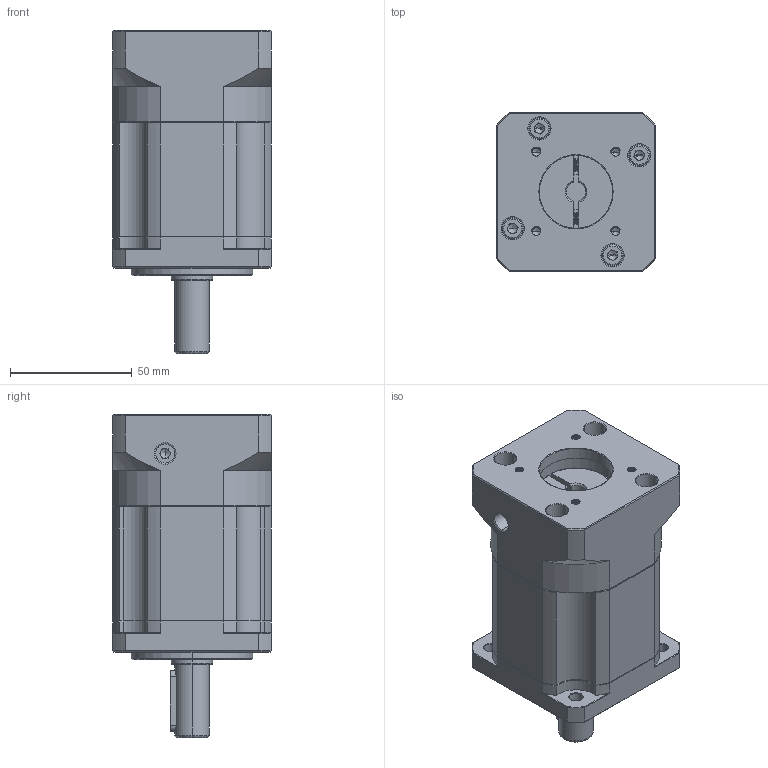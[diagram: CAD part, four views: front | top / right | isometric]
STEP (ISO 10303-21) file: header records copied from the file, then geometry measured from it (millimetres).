
FILE_DESCRIPTION (( 'STEP AP214' ), '1' );
FILE_NAME ('ZB60-D14-L2-8-30-46-M4.STEP', '2022-04-16T15:30:02', ( '' ), ( 'Microsoft' ), 'SwSTEP 2.0', 'SolidWorks 2016', '' );
FILE_SCHEMA (( 'AUTOMOTIVE_DESIGN' ));
Length unit declared in the file: millimetre
Products named in the file (1): ZB60-D14-L2-8-30-46-M4
Bounding box: 65 x 65 x 132.5 mm (x, y, z)
Volume: 336693.7 mm3; surface area: 58878.3 mm2
Topology: 6 solids, 6 shells, 1876 faces, 4981 edges, 3188 vertices
Faces by surface type: plane 879, cylinder 381, bspline 299, cone 281, torus 36
Entity records: 98853 total; most frequent: CARTESIAN_POINT 34024, ORIENTED_EDGE 9902, DIRECTION 8109, EDGE_CURVE 4951, VERTEX_POINT 3188, VECTOR 3011, LINE 3011, AXIS2_PLACEMENT_3D 2549
